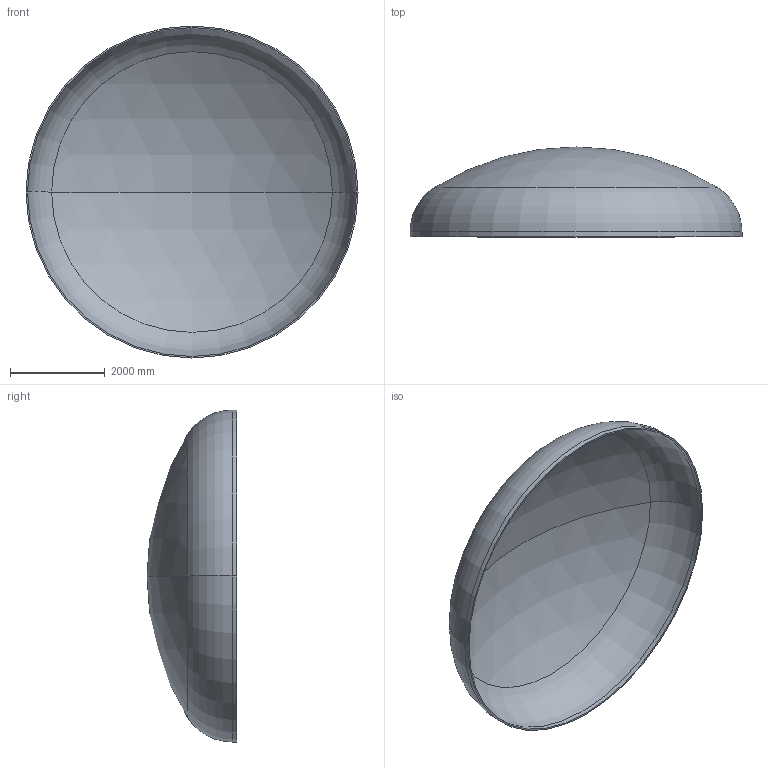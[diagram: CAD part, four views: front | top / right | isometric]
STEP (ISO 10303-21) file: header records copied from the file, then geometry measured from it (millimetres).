
FILE_DESCRIPTION (( 'STEP AP203' ), '1' );
FILE_NAME ('DIN 28013 Korbbogenform_-_Boden DIN 28013 - 7000 x 100 - I - s=31.step', '2016-07-04T10:46:32', ( '' ), ( '' ), 'SwSTEP 2.0', 'SolidWorks 2013', '' );
FILE_SCHEMA (( 'CONFIG_CONTROL_DESIGN' ));
Length unit declared in the file: millimetre
Products named in the file (1): DIN 28013 Korbbogenform_-_Boden DIN 28013 - 7000 x 100 - I - s=31
Bounding box: 7000 x 1893.93 x 7000 mm (x, y, z)
Volume: 1711206151.8 mm3; surface area: 111081072.2 mm2
Topology: 1 solids, 1 shells, 13 faces, 24 edges, 14 vertices
Faces by surface type: torus 4, cylinder 4, sphere 4, plane 1
Entity records: 407 total; most frequent: DIRECTION 72, CARTESIAN_POINT 52, ORIENTED_EDGE 48, AXIS2_PLACEMENT_3D 34, EDGE_CURVE 24, CIRCLE 20, VERTEX_POINT 14, EDGE_LOOP 14
